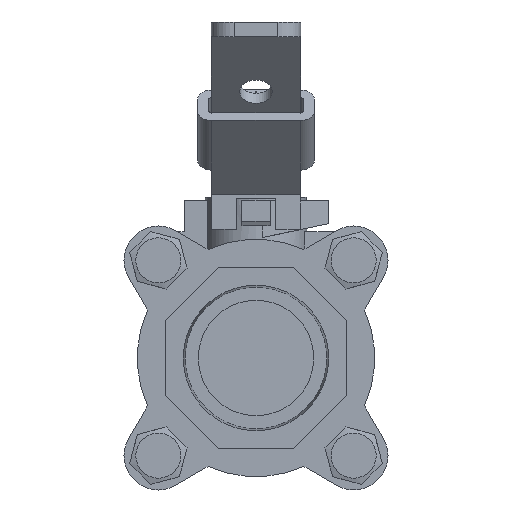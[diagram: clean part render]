
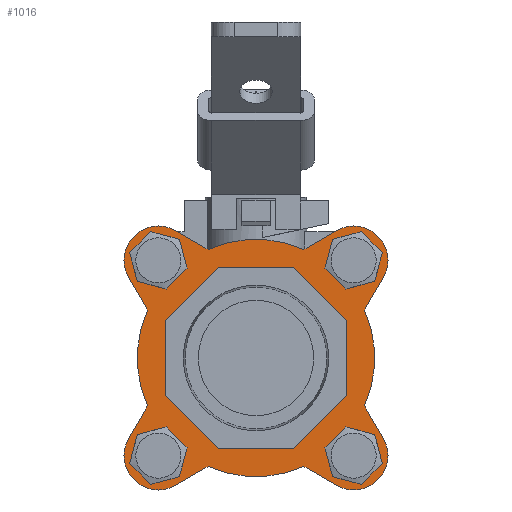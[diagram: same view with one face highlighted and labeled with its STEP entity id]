
A CAD part, left-side view. The second image highlights one B-rep face of the part: STEP entity #1016.
In plain terms, the highlighted planar face has unit normal (-1, 0, 0).
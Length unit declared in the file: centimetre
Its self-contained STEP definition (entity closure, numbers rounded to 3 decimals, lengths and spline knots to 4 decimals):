
#424=CARTESIAN_POINT('',(0.721,0.91,-0.2259));
#425=VERTEX_POINT('',#424);
#426=CARTESIAN_POINT('',(0.721,1.0617,-0.0742));
#427=DIRECTION('',(1.0,0.,0.));
#428=DIRECTION('',(0.,-0.707,-0.707));
#429=AXIS2_PLACEMENT_3D('',#426,#427,#428);
#430=CIRCLE('',#429,0.2145);
#431=EDGE_CURVE('',#425,#425,#430,.T.);
#463=CARTESIAN_POINT('',(0.721,1.2134,1.8975));
#464=VERTEX_POINT('',#463);
#465=CARTESIAN_POINT('',(0.721,1.0617,2.0492));
#466=DIRECTION('',(1.0,0.,0.));
#467=DIRECTION('',(0.,0.707,-0.707));
#468=AXIS2_PLACEMENT_3D('',#465,#466,#467);
#469=CIRCLE('',#468,0.2145);
#470=EDGE_CURVE('',#464,#464,#469,.T.);
#523=CARTESIAN_POINT('',(0.721,-1.2134,1.8975));
#524=VERTEX_POINT('',#523);
#525=CARTESIAN_POINT('',(0.721,-1.0617,2.0492));
#526=DIRECTION('',(1.0,0.,0.));
#527=DIRECTION('',(0.,-0.707,-0.707));
#528=AXIS2_PLACEMENT_3D('',#525,#526,#527);
#529=CIRCLE('',#528,0.2145);
#530=EDGE_CURVE('',#524,#524,#529,.T.);
#583=CARTESIAN_POINT('',(0.721,-0.91,-0.2259));
#584=VERTEX_POINT('',#583);
#585=CARTESIAN_POINT('',(0.721,-1.0617,-0.0742));
#586=DIRECTION('',(1.0,0.,0.));
#587=DIRECTION('',(0.,0.707,-0.707));
#588=AXIS2_PLACEMENT_3D('',#585,#586,#587);
#589=CIRCLE('',#588,0.2145);
#590=EDGE_CURVE('',#584,#584,#589,.T.);
#795=CARTESIAN_POINT('',(0.721,0.0,0.9875));
#796=DIRECTION('',(1.0,0.0,0.0));
#797=DIRECTION('',(0.0,0.707,-0.707));
#798=AXIS2_PLACEMENT_3D('',#795,#796,#797);
#799=PLANE('',#798);
#800=CARTESIAN_POINT('',(0.721,1.1798,0.4658));
#801=VERTEX_POINT('',#800);
#802=CARTESIAN_POINT('',(0.721,1.1798,1.5092));
#803=VERTEX_POINT('',#802);
#804=CARTESIAN_POINT('',(0.721,0.0,0.9875));
#805=DIRECTION('',(1.0,0.,0.));
#806=DIRECTION('',(0.,0.707,0.707));
#807=AXIS2_PLACEMENT_3D('',#804,#805,#806);
#808=CIRCLE('',#807,1.29);
#809=EDGE_CURVE('',#801,#803,#808,.T.);
#810=ORIENTED_EDGE('',*,*,#809,.F.);
#811=CARTESIAN_POINT('',(0.721,1.3846,0.1135));
#812=VERTEX_POINT('',#811);
#813=CARTESIAN_POINT('',(0.721,1.1798,0.4658));
#814=DIRECTION('',(0.0,0.503,-0.865));
#815=VECTOR('',#814,0.4076);
#816=LINE('',#813,#815);
#817=EDGE_CURVE('',#801,#812,#816,.T.);
#818=ORIENTED_EDGE('',*,*,#817,.T.);
#819=CARTESIAN_POINT('',(0.721,0.874,-0.3971));
#820=VERTEX_POINT('',#819);
#821=CARTESIAN_POINT('',(0.721,1.0617,-0.0742));
#822=DIRECTION('',(-1.0,0.,0.));
#823=DIRECTION('',(0.,0.707,-0.707));
#824=AXIS2_PLACEMENT_3D('',#821,#822,#823);
#825=CIRCLE('',#824,0.3735);
#826=EDGE_CURVE('',#812,#820,#825,.T.);
#827=ORIENTED_EDGE('',*,*,#826,.T.);
#828=CARTESIAN_POINT('',(0.721,0.5217,-0.1923));
#829=VERTEX_POINT('',#828);
#830=CARTESIAN_POINT('',(0.721,0.874,-0.3971));
#831=DIRECTION('',(0.0,-0.865,0.503));
#832=VECTOR('',#831,0.4076);
#833=LINE('',#830,#832);
#834=EDGE_CURVE('',#820,#829,#833,.T.);
#835=ORIENTED_EDGE('',*,*,#834,.T.);
#836=CARTESIAN_POINT('',(0.721,-0.5217,-0.1923));
#837=VERTEX_POINT('',#836);
#838=CARTESIAN_POINT('',(0.721,0.0,0.9875));
#839=DIRECTION('',(1.0,0.,0.));
#840=DIRECTION('',(0.,0.707,0.707));
#841=AXIS2_PLACEMENT_3D('',#838,#839,#840);
#842=CIRCLE('',#841,1.29);
#843=EDGE_CURVE('',#837,#829,#842,.T.);
#844=ORIENTED_EDGE('',*,*,#843,.F.);
#845=CARTESIAN_POINT('',(0.721,-0.874,-0.3971));
#846=VERTEX_POINT('',#845);
#847=CARTESIAN_POINT('',(0.721,-0.874,-0.3971));
#848=DIRECTION('',(0.0,0.865,0.503));
#849=VECTOR('',#848,0.4076);
#850=LINE('',#847,#849);
#851=EDGE_CURVE('',#846,#837,#850,.T.);
#852=ORIENTED_EDGE('',*,*,#851,.F.);
#853=CARTESIAN_POINT('',(0.721,-1.3846,0.1135));
#854=VERTEX_POINT('',#853);
#855=CARTESIAN_POINT('',(0.721,-1.0617,-0.0742));
#856=DIRECTION('',(1.0,0.,0.));
#857=DIRECTION('',(0.,-0.707,-0.707));
#858=AXIS2_PLACEMENT_3D('',#855,#856,#857);
#859=CIRCLE('',#858,0.3735);
#860=EDGE_CURVE('',#854,#846,#859,.T.);
#861=ORIENTED_EDGE('',*,*,#860,.F.);
#862=CARTESIAN_POINT('',(0.721,-1.1798,0.4658));
#863=VERTEX_POINT('',#862);
#864=CARTESIAN_POINT('',(0.721,-1.1798,0.4658));
#865=DIRECTION('',(0.0,-0.503,-0.865));
#866=VECTOR('',#865,0.4076);
#867=LINE('',#864,#866);
#868=EDGE_CURVE('',#863,#854,#867,.T.);
#869=ORIENTED_EDGE('',*,*,#868,.F.);
#870=CARTESIAN_POINT('',(0.721,-1.1798,1.5092));
#871=VERTEX_POINT('',#870);
#872=CARTESIAN_POINT('',(0.721,0.0,0.9875));
#873=DIRECTION('',(1.0,0.,0.));
#874=DIRECTION('',(0.,0.707,0.707));
#875=AXIS2_PLACEMENT_3D('',#872,#873,#874);
#876=CIRCLE('',#875,1.29);
#877=EDGE_CURVE('',#871,#863,#876,.T.);
#878=ORIENTED_EDGE('',*,*,#877,.F.);
#879=CARTESIAN_POINT('',(0.721,-1.3846,1.8615));
#880=VERTEX_POINT('',#879);
#881=CARTESIAN_POINT('',(0.721,-1.3846,1.8615));
#882=DIRECTION('',(0.0,0.503,-0.865));
#883=VECTOR('',#882,0.4076);
#884=LINE('',#881,#883);
#885=EDGE_CURVE('',#880,#871,#884,.T.);
#886=ORIENTED_EDGE('',*,*,#885,.F.);
#887=CARTESIAN_POINT('',(0.721,-0.874,2.3721));
#888=VERTEX_POINT('',#887);
#889=CARTESIAN_POINT('',(0.721,-1.0617,2.0492));
#890=DIRECTION('',(1.0,0.,0.));
#891=DIRECTION('',(0.,-0.707,0.707));
#892=AXIS2_PLACEMENT_3D('',#889,#890,#891);
#893=CIRCLE('',#892,0.3735);
#894=EDGE_CURVE('',#888,#880,#893,.T.);
#895=ORIENTED_EDGE('',*,*,#894,.F.);
#896=CARTESIAN_POINT('',(0.721,-0.5217,2.1673));
#897=VERTEX_POINT('',#896);
#898=CARTESIAN_POINT('',(0.721,-0.5217,2.1673));
#899=DIRECTION('',(0.0,-0.865,0.503));
#900=VECTOR('',#899,0.4076);
#901=LINE('',#898,#900);
#902=EDGE_CURVE('',#897,#888,#901,.T.);
#903=ORIENTED_EDGE('',*,*,#902,.F.);
#904=CARTESIAN_POINT('',(0.721,0.5217,2.1673));
#905=VERTEX_POINT('',#904);
#906=CARTESIAN_POINT('',(0.721,0.0,0.9875));
#907=DIRECTION('',(1.0,0.,0.));
#908=DIRECTION('',(0.,0.707,0.707));
#909=AXIS2_PLACEMENT_3D('',#906,#907,#908);
#910=CIRCLE('',#909,1.29);
#911=EDGE_CURVE('',#905,#897,#910,.T.);
#912=ORIENTED_EDGE('',*,*,#911,.F.);
#913=CARTESIAN_POINT('',(0.721,0.874,2.3721));
#914=VERTEX_POINT('',#913);
#915=CARTESIAN_POINT('',(0.721,0.5217,2.1673));
#916=DIRECTION('',(0.0,0.865,0.503));
#917=VECTOR('',#916,0.4076);
#918=LINE('',#915,#917);
#919=EDGE_CURVE('',#905,#914,#918,.T.);
#920=ORIENTED_EDGE('',*,*,#919,.T.);
#921=CARTESIAN_POINT('',(0.721,1.3846,1.8615));
#922=VERTEX_POINT('',#921);
#923=CARTESIAN_POINT('',(0.721,1.0617,2.0492));
#924=DIRECTION('',(-1.0,0.,0.));
#925=DIRECTION('',(0.,0.707,0.707));
#926=AXIS2_PLACEMENT_3D('',#923,#924,#925);
#927=CIRCLE('',#926,0.3735);
#928=EDGE_CURVE('',#914,#922,#927,.T.);
#929=ORIENTED_EDGE('',*,*,#928,.T.);
#930=CARTESIAN_POINT('',(0.721,1.3846,1.8615));
#931=DIRECTION('',(0.0,-0.503,-0.865));
#932=VECTOR('',#931,0.4076);
#933=LINE('',#930,#932);
#934=EDGE_CURVE('',#922,#803,#933,.T.);
#935=ORIENTED_EDGE('',*,*,#934,.T.);
#936=EDGE_LOOP('',(#810,#818,#827,#835,#844,#852,#861,#869,#878,#886,#895,#903,#912,#920,#929,#935));
#937=FACE_OUTER_BOUND('',#936,.T.);
#938=CARTESIAN_POINT('',(0.721,-0.409,0.0));
#939=VERTEX_POINT('',#938);
#940=CARTESIAN_POINT('',(0.721,-0.9875,0.5785));
#941=VERTEX_POINT('',#940);
#942=CARTESIAN_POINT('',(0.721,-0.409,0.));
#943=DIRECTION('',(0.0,-0.707,0.707));
#944=VECTOR('',#943,0.8181);
#945=LINE('',#942,#944);
#946=EDGE_CURVE('',#939,#941,#945,.T.);
#947=ORIENTED_EDGE('',*,*,#946,.F.);
#948=CARTESIAN_POINT('',(0.721,0.409,0.));
#949=VERTEX_POINT('',#948);
#950=CARTESIAN_POINT('',(0.721,0.409,0.));
#951=DIRECTION('',(0.0,-1.0,0.0));
#952=VECTOR('',#951,0.8181);
#953=LINE('',#950,#952);
#954=EDGE_CURVE('',#949,#939,#953,.T.);
#955=ORIENTED_EDGE('',*,*,#954,.F.);
#956=CARTESIAN_POINT('',(0.721,0.9875,0.5785));
#957=VERTEX_POINT('',#956);
#958=CARTESIAN_POINT('',(0.721,0.9875,0.5785));
#959=DIRECTION('',(0.0,-0.707,-0.707));
#960=VECTOR('',#959,0.8181);
#961=LINE('',#958,#960);
#962=EDGE_CURVE('',#957,#949,#961,.T.);
#963=ORIENTED_EDGE('',*,*,#962,.F.);
#964=CARTESIAN_POINT('',(0.721,0.9875,1.3965));
#965=VERTEX_POINT('',#964);
#966=CARTESIAN_POINT('',(0.721,0.9875,1.3965));
#967=DIRECTION('',(0.0,0.0,-1.0));
#968=VECTOR('',#967,0.8181);
#969=LINE('',#966,#968);
#970=EDGE_CURVE('',#965,#957,#969,.T.);
#971=ORIENTED_EDGE('',*,*,#970,.F.);
#972=CARTESIAN_POINT('',(0.721,0.409,1.975));
#973=VERTEX_POINT('',#972);
#974=CARTESIAN_POINT('',(0.721,0.409,1.975));
#975=DIRECTION('',(0.0,0.707,-0.707));
#976=VECTOR('',#975,0.8181);
#977=LINE('',#974,#976);
#978=EDGE_CURVE('',#973,#965,#977,.T.);
#979=ORIENTED_EDGE('',*,*,#978,.F.);
#980=CARTESIAN_POINT('',(0.721,-0.409,1.975));
#981=VERTEX_POINT('',#980);
#982=CARTESIAN_POINT('',(0.721,-0.409,1.975));
#983=DIRECTION('',(0.0,1.0,0.0));
#984=VECTOR('',#983,0.8181);
#985=LINE('',#982,#984);
#986=EDGE_CURVE('',#981,#973,#985,.T.);
#987=ORIENTED_EDGE('',*,*,#986,.F.);
#988=CARTESIAN_POINT('',(0.721,-0.9875,1.3965));
#989=VERTEX_POINT('',#988);
#990=CARTESIAN_POINT('',(0.721,-0.9875,1.3965));
#991=DIRECTION('',(0.0,0.707,0.707));
#992=VECTOR('',#991,0.8181);
#993=LINE('',#990,#992);
#994=EDGE_CURVE('',#989,#981,#993,.T.);
#995=ORIENTED_EDGE('',*,*,#994,.F.);
#996=CARTESIAN_POINT('',(0.721,-0.9875,0.5785));
#997=DIRECTION('',(0.0,0.0,1.0));
#998=VECTOR('',#997,0.8181);
#999=LINE('',#996,#998);
#1000=EDGE_CURVE('',#941,#989,#999,.T.);
#1001=ORIENTED_EDGE('',*,*,#1000,.F.);
#1002=EDGE_LOOP('',(#947,#955,#963,#971,#979,#987,#995,#1001));
#1003=FACE_BOUND('',#1002,.T.);
#1004=ORIENTED_EDGE('',*,*,#590,.T.);
#1005=EDGE_LOOP('',(#1004));
#1006=FACE_BOUND('',#1005,.T.);
#1007=ORIENTED_EDGE('',*,*,#530,.T.);
#1008=EDGE_LOOP('',(#1007));
#1009=FACE_BOUND('',#1008,.T.);
#1010=ORIENTED_EDGE('',*,*,#470,.T.);
#1011=EDGE_LOOP('',(#1010));
#1012=FACE_BOUND('',#1011,.T.);
#1013=ORIENTED_EDGE('',*,*,#431,.T.);
#1014=EDGE_LOOP('',(#1013));
#1015=FACE_BOUND('',#1014,.T.);
#1016=ADVANCED_FACE('',(#937,#1003,#1006,#1009,#1012,#1015),#799,.F.);
